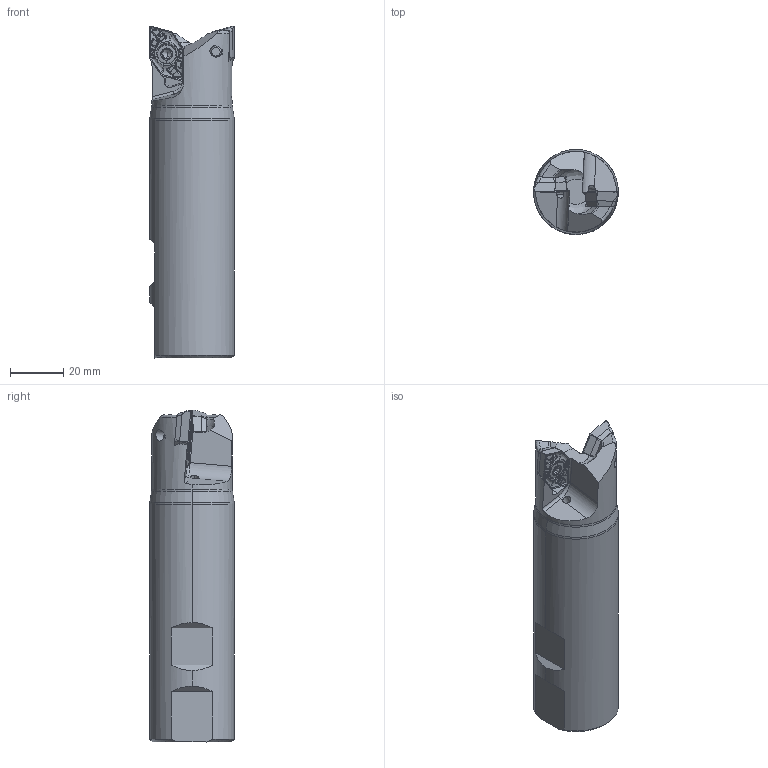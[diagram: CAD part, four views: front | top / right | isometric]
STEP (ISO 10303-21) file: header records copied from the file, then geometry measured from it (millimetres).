
FILE_DESCRIPTION (( 'STEP AP203' ), '1' );
FILE_NAME ('01-0665.STEP', '2023-01-10T17:42:08', ( '' ), ( '' ), 'SwSTEP 2.0', 'SolidWorks 2021', '' );
FILE_SCHEMA (( 'CONFIG_CONTROL_DESIGN' ));
Length unit declared in the file: inch
Products named in the file (6): ge22B8948Bq377_5; ge22B8948Bq377_2; 01-0665; ge22B8948Bq377_3; ge22B8948Bq377; ge22B8948Bq377_4
Assembly tree (5 placements, depth 2):
  01-0665
    ge22B8948Bq377
    ge22B8948Bq377_5
    ge22B8948Bq377_2
    ge22B8948Bq377_3
    ge22B8948Bq377_4
Bounding box: 32 x 32 x 125.2 mm (x, y, z)
Volume: 83733 mm3; surface area: 17426.4 mm2
Topology: 5 solids, 5 shells, 890 faces, 2225 edges, 1292 vertices
Faces by surface type: bspline 542, cylinder 171, plane 119, cone 54, torus 4
Entity records: 43714 total; most frequent: CARTESIAN_POINT 26440, ORIENTED_EDGE 4338, DIRECTION 2305, EDGE_CURVE 2169, VERTEX_POINT 1292, B_SPLINE_CURVE_WITH_KNOTS 1114, AXIS2_PLACEMENT_3D 970, EDGE_LOOP 905
